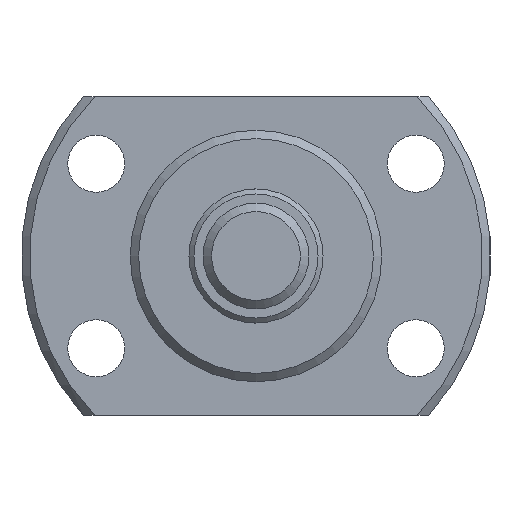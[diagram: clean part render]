
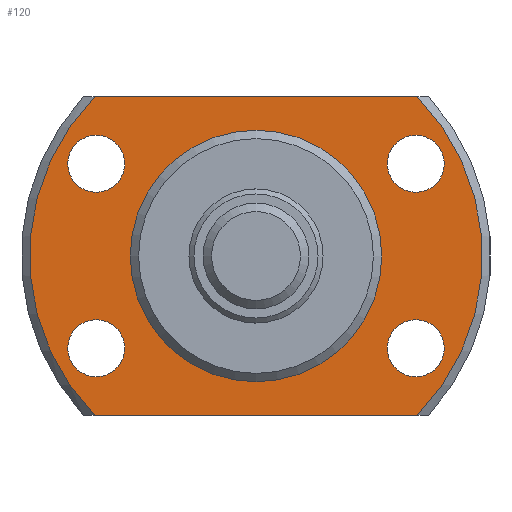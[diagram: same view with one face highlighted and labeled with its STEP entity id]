
A CAD part, left-side view. The second image highlights one B-rep face of the part: STEP entity #120.
In plain terms, the highlighted planar face has unit normal (-1, 0, 0).
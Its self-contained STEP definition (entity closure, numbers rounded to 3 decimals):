
#120 = ADVANCED_FACE( '', ( #239, #240, #241, #242, #243, #244 ), #245, .F. );
#239 = FACE_OUTER_BOUND( '', #395, .T. );
#240 = FACE_BOUND( '', #396, .T. );
#241 = FACE_BOUND( '', #397, .T. );
#242 = FACE_BOUND( '', #398, .T. );
#243 = FACE_BOUND( '', #399, .T. );
#244 = FACE_BOUND( '', #400, .T. );
#245 = PLANE( '', #401 );
#395 = EDGE_LOOP( '', ( #551, #552, #553, #554 ) );
#396 = EDGE_LOOP( '', ( #555 ) );
#397 = EDGE_LOOP( '', ( #556 ) );
#398 = EDGE_LOOP( '', ( #557 ) );
#399 = EDGE_LOOP( '', ( #558 ) );
#400 = EDGE_LOOP( '', ( #559 ) );
#401 = AXIS2_PLACEMENT_3D( '', #560, #561, #562 );
#551 = ORIENTED_EDGE( '', *, *, #810, .F. );
#552 = ORIENTED_EDGE( '', *, *, #811, .F. );
#553 = ORIENTED_EDGE( '', *, *, #812, .F. );
#554 = ORIENTED_EDGE( '', *, *, #813, .F. );
#555 = ORIENTED_EDGE( '', *, *, #814, .T. );
#556 = ORIENTED_EDGE( '', *, *, #815, .T. );
#557 = ORIENTED_EDGE( '', *, *, #816, .T. );
#558 = ORIENTED_EDGE( '', *, *, #817, .T. );
#559 = ORIENTED_EDGE( '', *, *, #799, .T. );
#560 = CARTESIAN_POINT( '', ( 14., 7.35, 0. ) );
#561 = DIRECTION( '', ( 1., 0., 0. ) );
#562 = DIRECTION( '', ( 0., 0., -1. ) );
#799 = EDGE_CURVE( '', #899, #899, #900, .T. );
#810 = EDGE_CURVE( '', #918, #919, #920, .T. );
#811 = EDGE_CURVE( '', #921, #918, #922, .T. );
#812 = EDGE_CURVE( '', #923, #921, #924, .T. );
#813 = EDGE_CURVE( '', #919, #923, #925, .T. );
#814 = EDGE_CURVE( '', #926, #926, #927, .T. );
#815 = EDGE_CURVE( '', #928, #928, #929, .T. );
#816 = EDGE_CURVE( '', #930, #930, #931, .T. );
#817 = EDGE_CURVE( '', #932, #932, #933, .T. );
#899 = VERTEX_POINT( '', #1046 );
#900 = CIRCLE( '', #1047, 7.35 );
#918 = VERTEX_POINT( '', #1072 );
#919 = VERTEX_POINT( '', #1073 );
#920 = CIRCLE( '', #1074, 13.5 );
#921 = VERTEX_POINT( '', #1075 );
#922 = LINE( '', #1076, #1077 );
#923 = VERTEX_POINT( '', #1078 );
#924 = CIRCLE( '', #1079, 13.5 );
#925 = LINE( '', #1080, #1081 );
#926 = VERTEX_POINT( '', #1082 );
#927 = CIRCLE( '', #1083, 1.7 );
#928 = VERTEX_POINT( '', #1084 );
#929 = CIRCLE( '', #1085, 1.7 );
#930 = VERTEX_POINT( '', #1086 );
#931 = CIRCLE( '', #1087, 1.7 );
#932 = VERTEX_POINT( '', #1088 );
#933 = CIRCLE( '', #1089, 1.7 );
#1046 = CARTESIAN_POINT( '', ( 14., 0., -7.35 ) );
#1047 = AXIS2_PLACEMENT_3D( '', #1233, #1234, #1235 );
#1072 = CARTESIAN_POINT( '', ( 14., 9.592, -9.5 ) );
#1073 = CARTESIAN_POINT( '', ( 14., 9.592, 9.5 ) );
#1074 = AXIS2_PLACEMENT_3D( '', #1249, #1250, #1251 );
#1075 = CARTESIAN_POINT( '', ( 14., -9.592, -9.5 ) );
#1076 = CARTESIAN_POINT( '', ( 14., -28., -9.5 ) );
#1077 = VECTOR( '', #1252, 1000. );
#1078 = CARTESIAN_POINT( '', ( 14., -9.592, 9.5 ) );
#1079 = AXIS2_PLACEMENT_3D( '', #1253, #1254, #1255 );
#1080 = CARTESIAN_POINT( '', ( 14., 28., 9.5 ) );
#1081 = VECTOR( '', #1256, 1000. );
#1082 = CARTESIAN_POINT( '', ( 14., -9.526, 3.8 ) );
#1083 = AXIS2_PLACEMENT_3D( '', #1257, #1258, #1259 );
#1084 = CARTESIAN_POINT( '', ( 14., -9.526, -7.2 ) );
#1085 = AXIS2_PLACEMENT_3D( '', #1260, #1261, #1262 );
#1086 = CARTESIAN_POINT( '', ( 14., 9.526, -7.2 ) );
#1087 = AXIS2_PLACEMENT_3D( '', #1263, #1264, #1265 );
#1088 = CARTESIAN_POINT( '', ( 14., 9.526, 3.8 ) );
#1089 = AXIS2_PLACEMENT_3D( '', #1266, #1267, #1268 );
#1233 = CARTESIAN_POINT( '', ( 14., 0., 0. ) );
#1234 = DIRECTION( '', ( 1., 0., 0. ) );
#1235 = DIRECTION( '', ( 0., 0., -1. ) );
#1249 = CARTESIAN_POINT( '', ( 14., 0., 0. ) );
#1250 = DIRECTION( '', ( 1., 0., 0. ) );
#1251 = DIRECTION( '', ( 0., 0., -1. ) );
#1252 = DIRECTION( '', ( 0., 1., 0. ) );
#1253 = CARTESIAN_POINT( '', ( 14., 0., 0. ) );
#1254 = DIRECTION( '', ( 1., 0., 0. ) );
#1255 = DIRECTION( '', ( 0., 0., -1. ) );
#1256 = DIRECTION( '', ( 0., -1., 0. ) );
#1257 = CARTESIAN_POINT( '', ( 14., -9.526, 5.5 ) );
#1258 = DIRECTION( '', ( 1., 0., 0. ) );
#1259 = DIRECTION( '', ( 0., 0., -1. ) );
#1260 = CARTESIAN_POINT( '', ( 14., -9.526, -5.5 ) );
#1261 = DIRECTION( '', ( 1., 0., 0. ) );
#1262 = DIRECTION( '', ( 0., 0., -1. ) );
#1263 = CARTESIAN_POINT( '', ( 14., 9.526, -5.5 ) );
#1264 = DIRECTION( '', ( 1., 0., 0. ) );
#1265 = DIRECTION( '', ( 0., 0., -1. ) );
#1266 = CARTESIAN_POINT( '', ( 14., 9.526, 5.5 ) );
#1267 = DIRECTION( '', ( 1., 0., 0. ) );
#1268 = DIRECTION( '', ( 0., 0., -1. ) );
